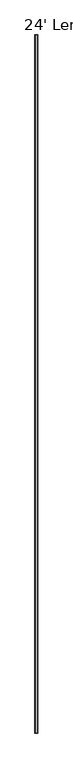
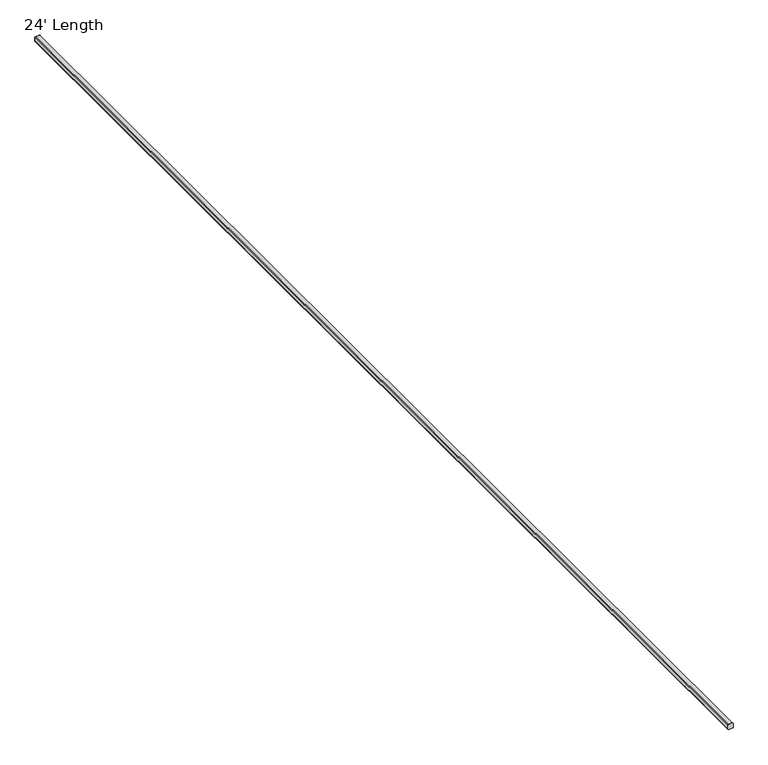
"""IFC4 building model written with IfcOpenShell, lengths in millimetres: light fixture geometry, 63_PHILIPS_DALI Square Track_RCS750 5C6 L4000 : 24' Length."""

from ifc_helpers import new_model, si_unit, point, frame, frame_2d, origin, place, context, project, spatial, polyline, circle_curve, trimmed, segment, composite_curve, outline, extrude, source, transform, mapped, element, save


def light_fixture_24_length_67d3ab09(model_context):
    return source(origin(), model_context, "Body", "SweptSolid", [
        extrude(outline(composite_curve([segment(polyline([(0.0, 13.5), (0.0, -13.5)]), True, "CONTINUOUS"), segment(trimmed(circle_curve(frame_2d((-7.411509, -4.5112137)), 11.650268), [point((0.0, -13.5))], [point((-5.4784973, -16.0))], False, "CARTESIAN"), True, "CONTINUOUS"), segment(polyline([(-5.4784973, -16.0), (-28.3363105, -16.0)]), True, "CONTINUOUS"), segment(trimmed(circle_curve(frame_2d((-28.3363105, -8.0)), 8.0), [point((-28.3363105, -16.0))], [point((-33.0, -14.5))], False, "CARTESIAN"), True, "CONTINUOUS"), segment(polyline([(-33.0, -14.5), (-33.0, -13.5), (-29.8363105, -13.5), (-29.8363105, -6.0), (-4.8363105, -6.0), (-4.8363105, 6.0), (-29.8363105, 6.0), (-29.8363105, 13.5)]), True, "CONTINUOUS"), segment(trimmed(circle_curve(frame_2d((-27.3363105, 13.5)), 2.5), [point((-29.8363105, 13.5))], [point((-27.3363105, 16.0))], False, "CARTESIAN"), True, "CONTINUOUS"), segment(polyline([(-27.3363105, 16.0), (-5.4784973, 16.0)]), True, "CONTINUOUS"), segment(trimmed(circle_curve(frame_2d((-7.1833442, 5.0112137)), 11.1202485), [point((-5.4784973, 16.0))], [point((0.0, 13.5))], False, "CARTESIAN"), True, "CONTINUOUS")], self_intersect=False)), frame((0.0, -3657.6, 0.0), z_axis=(0.0, 1.0, 0.0), x_axis=(0.0, 0.0, 1.0)), (0.0, 0.0, 1.0), 7315.2),
        extrude(outline(composite_curve([segment(polyline([(-5.4784973, -16.0), (-28.3363105, -16.0)]), True, "CONTINUOUS"), segment(trimmed(circle_curve(frame_2d((-28.3363105, -8.0)), 8.0), [point((-28.3363105, -16.0))], [point((-33.0, -14.5))], False, "CARTESIAN"), True, "CONTINUOUS"), segment(polyline([(-33.0, -14.5), (-33.0, 16.0), (-5.4784973, 16.0)]), True, "CONTINUOUS"), segment(trimmed(circle_curve(frame_2d((-7.1833442, 5.0112137)), 11.1202485), [point((-5.4784973, 16.0))], [point((0.0, 13.5))], False, "CARTESIAN"), True, "CONTINUOUS"), segment(polyline([(0.0, 13.5), (0.0, -13.5)]), True, "CONTINUOUS"), segment(trimmed(circle_curve(frame_2d((-7.411509, -4.5112137)), 11.650268), [point((0.0, -13.5))], [point((-5.4784973, -16.0))], False, "CARTESIAN"), True, "CONTINUOUS")], self_intersect=False)), frame((0.0, 3657.6, 0.0), z_axis=(0.0, 1.0, 0.0), x_axis=(0.0, 0.0, 1.0)), (0.0, 0.0, 1.0), 2.0),
        extrude(outline(composite_curve([segment(polyline([(-5.4784973, -16.0), (-28.3363105, -16.0)]), True, "CONTINUOUS"), segment(trimmed(circle_curve(frame_2d((-28.3363105, -8.0)), 8.0), [point((-28.3363105, -16.0))], [point((-33.0, -14.5))], False, "CARTESIAN"), True, "CONTINUOUS"), segment(polyline([(-33.0, -14.5), (-33.0, 16.0), (-5.4784973, 16.0)]), True, "CONTINUOUS"), segment(trimmed(circle_curve(frame_2d((-7.1833442, 5.0112137)), 11.1202485), [point((-5.4784973, 16.0))], [point((0.0, 13.5))], False, "CARTESIAN"), True, "CONTINUOUS"), segment(polyline([(0.0, 13.5), (0.0, -13.5)]), True, "CONTINUOUS"), segment(trimmed(circle_curve(frame_2d((-7.411509, -4.5112137)), 11.650268), [point((0.0, -13.5))], [point((-5.4784973, -16.0))], False, "CARTESIAN"), True, "CONTINUOUS")], self_intersect=False)), frame((0.0, -3659.6, 0.0), z_axis=(0.0, 1.0, 0.0), x_axis=(0.0, 0.0, 1.0)), (0.0, 0.0, 1.0), 2.0),
    ])


if __name__ == "__main__":
    model = new_model("IFC4")
    model_context = context("Model", 3, world=origin())
    ifc_project = project(units=[si_unit("LENGTHUNIT", "METRE", prefix="MILLI")], contexts=[model_context])
    site = spatial("IfcSite", under=ifc_project)
    building = spatial("IfcBuilding", under=site)
    placement = place(None, origin())
    light_fixture_24_length_shape = light_fixture_24_length_67d3ab09(model_context)
    element("IfcLightFixture", 1, ObjectType="63_PHILIPS_DALI Square Track_RCS750 5C6 L4000 : 24' Length", at=placement, inside=building, context=model_context, shape_type="MappedRepresentation", body=[
        mapped(light_fixture_24_length_shape, transform((0.0, 0.0, 0.0), x_axis=(1.0, 0.0, 0.0), y_axis=(0.0, 1.0, 0.0), z_axis=(0.0, 0.0, 1.0))),
    ])
    save(model, "model.ifc")
